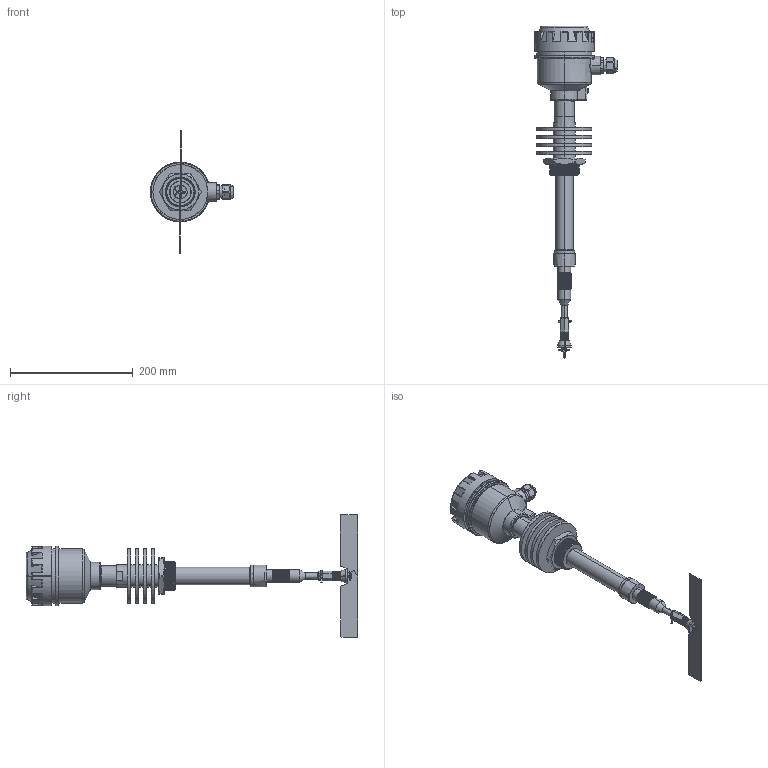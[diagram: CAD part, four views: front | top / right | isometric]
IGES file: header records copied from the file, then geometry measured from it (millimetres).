
Start section: SolidWorks IGES file using analytic representation for surfaces
Global section: file name: C:\Users\Äîì\Desktop\Äàò÷èêè ìîäåëè\IL-SAA-N-HT600\Äëÿ Êîìïàñà\IL-SAA-N-HT600 ñêëàäíàÿ ëîïàñòü - ð.IGS; native system: SolidWorks 2020; preprocessor: SolidWorks 2020; author: Äîì; date: 201225.134516; units: millimetre
Bounding box: 135 x 540 x 200 mm (x, y, z)
Surface area: 182789.7 mm2 (no closed solid volume)
Topology: 0 solids, 0 shells, 744 faces, 10089 edges, 10068 vertices
Faces by surface type: bspline 374, revolution 370
